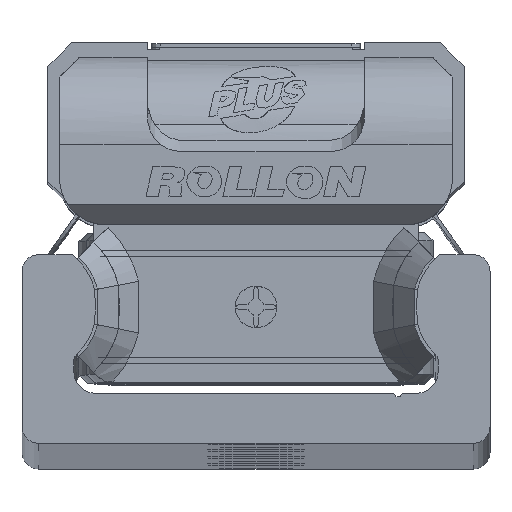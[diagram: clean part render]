
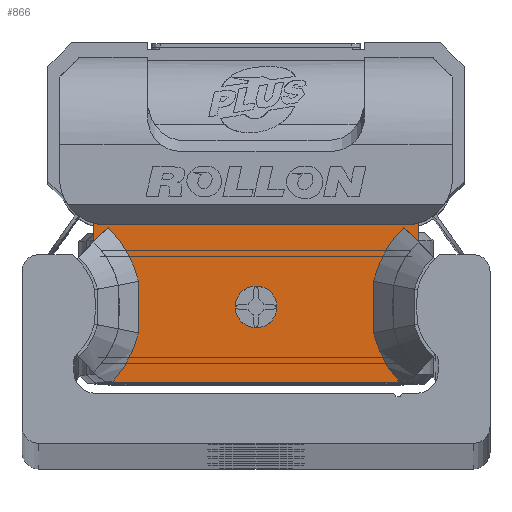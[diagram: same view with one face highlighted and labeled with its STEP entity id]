
A CAD part, top view. The second image highlights one B-rep face of the part: STEP entity #866.
In plain terms, the highlighted planar face has unit normal (0, 0, 1) as drawn and (0, 0, -1) by its records, which use the part's own axes.
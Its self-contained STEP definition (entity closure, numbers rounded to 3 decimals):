
#866 = ADVANCED_FACE( '', ( #2270, #2271 ), #2272, .F. );
#2270 = FACE_BOUND( '', #4447, .T. );
#2271 = FACE_OUTER_BOUND( '', #4448, .T. );
#2272 = PLANE( '', #4449 );
#4447 = EDGE_LOOP( '', ( #6870 ) );
#4448 = EDGE_LOOP( '', ( #6871, #6872, #6873, #6874, #6875, #6876, #6877, #6878, #6879, #6880, #6881, #6882, #6883, #6884 ) );
#4449 = AXIS2_PLACEMENT_3D( '', #6885, #6886, #6887 );
#6870 = ORIENTED_EDGE( '', *, *, #12372, .T. );
#6871 = ORIENTED_EDGE( '', *, *, #12373, .F. );
#6872 = ORIENTED_EDGE( '', *, *, #12374, .T. );
#6873 = ORIENTED_EDGE( '', *, *, #12375, .T. );
#6874 = ORIENTED_EDGE( '', *, *, #12376, .T. );
#6875 = ORIENTED_EDGE( '', *, *, #12312, .T. );
#6876 = ORIENTED_EDGE( '', *, *, #12377, .T. );
#6877 = ORIENTED_EDGE( '', *, *, #12378, .T. );
#6878 = ORIENTED_EDGE( '', *, *, #12379, .T. );
#6879 = ORIENTED_EDGE( '', *, *, #12380, .T. );
#6880 = ORIENTED_EDGE( '', *, *, #12381, .T. );
#6881 = ORIENTED_EDGE( '', *, *, #12382, .T. );
#6882 = ORIENTED_EDGE( '', *, *, #12383, .T. );
#6883 = ORIENTED_EDGE( '', *, *, #12384, .T. );
#6884 = ORIENTED_EDGE( '', *, *, #12385, .T. );
#6885 = CARTESIAN_POINT( '', ( 9.7, 4.89, -10.6 ) );
#6886 = DIRECTION( '', ( 0., 0., 1. ) );
#6887 = DIRECTION( '', ( 1., 0., 0. ) );
#12312 = EDGE_CURVE( '', #14577, #14578, #14579, .T. );
#12372 = EDGE_CURVE( '', #14682, #14682, #14683, .T. );
#12373 = EDGE_CURVE( '', #14684, #14685, #14686, .T. );
#12374 = EDGE_CURVE( '', #14684, #14687, #14688, .T. );
#12375 = EDGE_CURVE( '', #14687, #14689, #14690, .T. );
#12376 = EDGE_CURVE( '', #14689, #14577, #14691, .T. );
#12377 = EDGE_CURVE( '', #14578, #14692, #14693, .T. );
#12378 = EDGE_CURVE( '', #14692, #14694, #14695, .T. );
#12379 = EDGE_CURVE( '', #14694, #14696, #14697, .T. );
#12380 = EDGE_CURVE( '', #14696, #14698, #14699, .T. );
#12381 = EDGE_CURVE( '', #14698, #14700, #14701, .T. );
#12382 = EDGE_CURVE( '', #14700, #14702, #14703, .T. );
#12383 = EDGE_CURVE( '', #14702, #14704, #14705, .T. );
#12384 = EDGE_CURVE( '', #14704, #14706, #14707, .T. );
#12385 = EDGE_CURVE( '', #14706, #14685, #14708, .T. );
#14577 = VERTEX_POINT( '', #17900 );
#14578 = VERTEX_POINT( '', #17901 );
#14579 = LINE( '', #17902, #17903 );
#14682 = VERTEX_POINT( '', #18056 );
#14683 = CIRCLE( '', #18057, 1.25 );
#14684 = VERTEX_POINT( '', #18058 );
#14685 = VERTEX_POINT( '', #18059 );
#14686 = LINE( '', #18060, #18061 );
#14687 = VERTEX_POINT( '', #18062 );
#14688 = CIRCLE( '', #18063, 2.8 );
#14689 = VERTEX_POINT( '', #18064 );
#14690 = LINE( '', #18065, #18066 );
#14691 = CIRCLE( '', #18067, 2.8 );
#14692 = VERTEX_POINT( '', #18068 );
#14693 = LINE( '', #18069, #18070 );
#14694 = VERTEX_POINT( '', #18071 );
#14695 = B_SPLINE_CURVE_WITH_KNOTS( '', 2, ( #18072, #18073, #18074, #18075, #18076 ), .UNSPECIFIED., .F., .F., ( 3, 2, 3 ), ( 0., 0.5, 1. ), .UNSPECIFIED. );
#14696 = VERTEX_POINT( '', #18077 );
#14697 = B_SPLINE_CURVE_WITH_KNOTS( '', 2, ( #18078, #18079, #18080 ), .UNSPECIFIED., .F., .F., ( 3, 3 ), ( 0., 1. ), .UNSPECIFIED. );
#14698 = VERTEX_POINT( '', #18081 );
#14699 = B_SPLINE_CURVE_WITH_KNOTS( '', 2, ( #18082, #18083, #18084 ), .UNSPECIFIED., .F., .F., ( 3, 3 ), ( 0., 1. ), .UNSPECIFIED. );
#14700 = VERTEX_POINT( '', #18085 );
#14701 = LINE( '', #18086, #18087 );
#14702 = VERTEX_POINT( '', #18088 );
#14703 = B_SPLINE_CURVE_WITH_KNOTS( '', 2, ( #18089, #18090, #18091 ), .UNSPECIFIED., .F., .F., ( 3, 3 ), ( 0.1, 1. ), .UNSPECIFIED. );
#14704 = VERTEX_POINT( '', #18092 );
#14705 = B_SPLINE_CURVE_WITH_KNOTS( '', 2, ( #18093, #18094, #18095 ), .UNSPECIFIED., .F., .F., ( 3, 3 ), ( 0., 1. ), .UNSPECIFIED. );
#14706 = VERTEX_POINT( '', #18096 );
#14707 = B_SPLINE_CURVE_WITH_KNOTS( '', 2, ( #18097, #18098, #18099 ), .UNSPECIFIED., .F., .F., ( 3, 3 ), ( 0., 1. ), .UNSPECIFIED. );
#14708 = LINE( '', #18100, #18101 );
#17900 = CARTESIAN_POINT( '', ( 9.7, 4.612, -10.6 ) );
#17901 = CARTESIAN_POINT( '', ( 9.7, 3.497, -10.6 ) );
#17902 = CARTESIAN_POINT( '', ( 9.7, 4.89, -10.6 ) );
#17903 = VECTOR( '', #22392, 1000. );
#18056 = CARTESIAN_POINT( '', ( 1.25, -0.39, -10.6 ) );
#18057 = AXIS2_PLACEMENT_3D( '', #22474, #22475, #22476 );
#18058 = CARTESIAN_POINT( '', ( -9.7, 4.612, -10.6 ) );
#18059 = CARTESIAN_POINT( '', ( -9.7, 3.494, -10.6 ) );
#18060 = CARTESIAN_POINT( '', ( -9.7, 4.89, -10.6 ) );
#18061 = VECTOR( '', #22477, 1000. );
#18062 = CARTESIAN_POINT( '', ( -8.95, 4.51, -10.6 ) );
#18063 = AXIS2_PLACEMENT_3D( '', #22478, #22479, #22480 );
#18064 = CARTESIAN_POINT( '', ( 8.95, 4.51, -10.6 ) );
#18065 = CARTESIAN_POINT( '', ( 9.7, 4.51, -10.6 ) );
#18066 = VECTOR( '', #22481, 1000. );
#18067 = AXIS2_PLACEMENT_3D( '', #22482, #22483, #22484 );
#18068 = CARTESIAN_POINT( '', ( 8.853, 4.366, -10.6 ) );
#18069 = CARTESIAN_POINT( '', ( 9.7, 3.501, -10.6 ) );
#18070 = VECTOR( '', #22485, 1000. );
#18071 = CARTESIAN_POINT( '', ( 7.031, 1.144, -10.6 ) );
#18072 = CARTESIAN_POINT( '', ( 8.853, 4.366, -10.6 ) );
#18073 = CARTESIAN_POINT( '', ( 8.182, 3.708, -10.6 ) );
#18074 = CARTESIAN_POINT( '', ( 7.715, 2.883, -10.6 ) );
#18075 = CARTESIAN_POINT( '', ( 7.249, 2.058, -10.6 ) );
#18076 = CARTESIAN_POINT( '', ( 7.031, 1.144, -10.6 ) );
#18077 = CARTESIAN_POINT( '', ( 7.031, -1.944, -10.6 ) );
#18078 = CARTESIAN_POINT( '', ( 7.031, 1.144, -10.6 ) );
#18079 = CARTESIAN_POINT( '', ( 6.929, -0.4, -10.6 ) );
#18080 = CARTESIAN_POINT( '', ( 7.031, -1.944, -10.6 ) );
#18081 = CARTESIAN_POINT( '', ( 8.59, -4.893, -10.6 ) );
#18082 = CARTESIAN_POINT( '', ( 7.031, -1.944, -10.6 ) );
#18083 = CARTESIAN_POINT( '', ( 7.429, -3.615, -10.6 ) );
#18084 = CARTESIAN_POINT( '', ( 8.588, -4.89, -10.6 ) );
#18085 = CARTESIAN_POINT( '', ( -8.59, -4.893, -10.6 ) );
#18086 = CARTESIAN_POINT( '', ( 9.7, -4.89, -10.6 ) );
#18087 = VECTOR( '', #22486, 1000. );
#18088 = CARTESIAN_POINT( '', ( -7.031, -1.944, -10.6 ) );
#18089 = CARTESIAN_POINT( '', ( -8.587, -4.89, -10.6 ) );
#18090 = CARTESIAN_POINT( '', ( -7.432, -3.63, -10.6 ) );
#18091 = CARTESIAN_POINT( '', ( -7.031, -1.944, -10.6 ) );
#18092 = CARTESIAN_POINT( '', ( -7.031, 1.144, -10.6 ) );
#18093 = CARTESIAN_POINT( '', ( -7.031, -1.944, -10.6 ) );
#18094 = CARTESIAN_POINT( '', ( -6.929, -0.4, -10.6 ) );
#18095 = CARTESIAN_POINT( '', ( -7.031, 1.144, -10.6 ) );
#18096 = CARTESIAN_POINT( '', ( -8.853, 4.366, -10.6 ) );
#18097 = CARTESIAN_POINT( '', ( -7.031, 1.144, -10.6 ) );
#18098 = CARTESIAN_POINT( '', ( -7.477, 3.018, -10.6 ) );
#18099 = CARTESIAN_POINT( '', ( -8.853, 4.366, -10.6 ) );
#18100 = CARTESIAN_POINT( '', ( -8.853, 4.366, -10.6 ) );
#18101 = VECTOR( '', #22487, 1000. );
#22392 = DIRECTION( '', ( 0., -1., 0. ) );
#22474 = CARTESIAN_POINT( '', ( 0., -0.39, -10.6 ) );
#22475 = DIRECTION( '', ( 0., 0., 1. ) );
#22476 = DIRECTION( '', ( 1., 0., 0. ) );
#22477 = DIRECTION( '', ( 0., -1., 0. ) );
#22478 = CARTESIAN_POINT( '', ( -8.95, 7.31, -10.6 ) );
#22479 = DIRECTION( '', ( 0., 0., 1. ) );
#22480 = DIRECTION( '', ( 1., 0., 0. ) );
#22481 = DIRECTION( '', ( 1., 0., 0. ) );
#22482 = CARTESIAN_POINT( '', ( 8.95, 7.31, -10.6 ) );
#22483 = DIRECTION( '', ( 0., 0., 1. ) );
#22484 = DIRECTION( '', ( 1., 0., 0. ) );
#22485 = DIRECTION( '', ( -0.7, 0.714, 0. ) );
#22486 = DIRECTION( '', ( -1., 0., 0. ) );
#22487 = DIRECTION( '', ( -0.7, -0.714, 0. ) );
